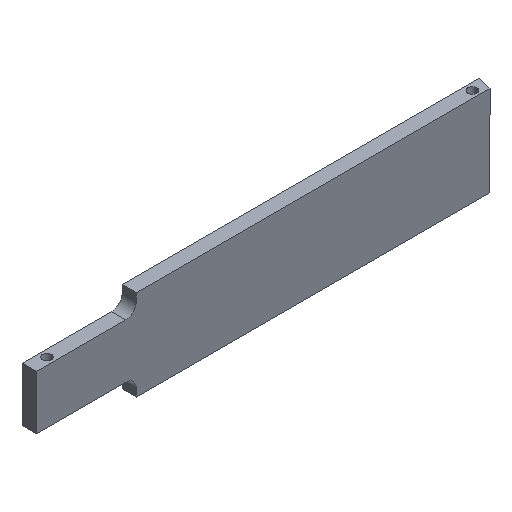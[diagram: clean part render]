
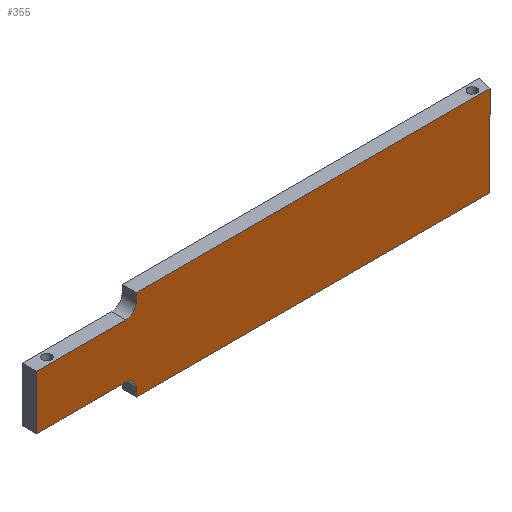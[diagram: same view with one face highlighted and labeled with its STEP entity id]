
A CAD part, isometric view. The second image highlights one B-rep face of the part: STEP entity #355.
In plain terms, the highlighted planar face has unit normal (0, -1, 0).
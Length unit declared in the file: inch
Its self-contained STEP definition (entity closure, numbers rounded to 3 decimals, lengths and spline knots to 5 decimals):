
#1 = CARTESIAN_POINT ( 'NONE',  ( -4.18, -0.15, 0.635 ) ) ;
#2 = AXIS2_PLACEMENT_3D ( 'NONE', #317, #271, #212 ) ;
#3 = EDGE_CURVE ( 'NONE', #356, #346, #481, .T. ) ;
#7 = VECTOR ( 'NONE', #104, 39.37008 ) ;
#10 = LINE ( 'NONE', #224, #467 ) ;
#14 = CARTESIAN_POINT ( 'NONE',  ( -4.18, -0.15, 0.635 ) ) ;
#22 = VERTEX_POINT ( 'NONE', #91 ) ;
#23 = EDGE_CURVE ( 'NONE', #489, #178, #56, .T. ) ;
#24 = DIRECTION ( 'NONE',  ( 0., 1., 0. ) ) ;
#25 = VERTEX_POINT ( 'NONE', #100 ) ;
#28 = DIRECTION ( 'NONE',  ( 0., 0., -1. ) ) ;
#34 = VERTEX_POINT ( 'NONE', #114 ) ;
#37 = CARTESIAN_POINT ( 'NONE',  ( 11.68603, -0.15, 0. ) ) ;
#48 = DIRECTION ( 'NONE',  ( 0., 0., 1. ) ) ;
#50 = EDGE_CURVE ( 'NONE', #305, #25, #289, .T. ) ;
#51 = DIRECTION ( 'NONE',  ( -1., 0., 0. ) ) ;
#54 = EDGE_CURVE ( 'NONE', #22, #356, #10, .T. ) ;
#56 = LINE ( 'NONE', #92, #7 ) ;
#77 = CARTESIAN_POINT ( 'NONE',  ( -1.055, -0.15, 0.26 ) ) ;
#79 = CARTESIAN_POINT ( 'NONE',  ( -0.68, -0.15, 3.16 ) ) ;
#91 = CARTESIAN_POINT ( 'NONE',  ( -0.68, -0.15, 0. ) ) ;
#92 = CARTESIAN_POINT ( 'NONE',  ( -4.18, -0.15, 2.525 ) ) ;
#100 = CARTESIAN_POINT ( 'NONE',  ( -1.055, -0.15, 0.635 ) ) ;
#104 = DIRECTION ( 'NONE',  ( -1., 0., 0. ) ) ;
#114 = CARTESIAN_POINT ( 'NONE',  ( -0.68, -0.15, 2.9 ) ) ;
#132 = DIRECTION ( 'NONE',  ( 1., 0., 0. ) ) ;
#136 = ORIENTED_EDGE ( 'NONE', *, *, #50, .T. ) ;
#178 = VERTEX_POINT ( 'NONE', #401 ) ;
#179 = CARTESIAN_POINT ( 'NONE',  ( 11.68603, -0.15, 3.16 ) ) ;
#195 = ORIENTED_EDGE ( 'NONE', *, *, #233, .T. ) ;
#206 = CARTESIAN_POINT ( 'NONE',  ( 11.68603, -0.15, 0. ) ) ;
#212 = DIRECTION ( 'NONE',  ( -1., 0., 0. ) ) ;
#224 = CARTESIAN_POINT ( 'NONE',  ( -4.18, -0.15, 0. ) ) ;
#225 = DIRECTION ( 'NONE',  ( 1., 0., 0. ) ) ;
#231 = AXIS2_PLACEMENT_3D ( 'NONE', #306, #298, #294 ) ;
#233 = EDGE_CURVE ( 'NONE', #25, #562, #407, .T. ) ;
#234 = DIRECTION ( 'NONE',  ( 0., 0., -1. ) ) ;
#247 = CARTESIAN_POINT ( 'NONE',  ( -4.18, -0.15, 3.16 ) ) ;
#255 = CARTESIAN_POINT ( 'NONE',  ( -0.68, -0.15, 3.16 ) ) ;
#256 = DIRECTION ( 'NONE',  ( 1., 0., 0. ) ) ;
#259 = ORIENTED_EDGE ( 'NONE', *, *, #466, .T. ) ;
#261 = VECTOR ( 'NONE', #414, 39.37008 ) ;
#266 = ORIENTED_EDGE ( 'NONE', *, *, #435, .T. ) ;
#271 = DIRECTION ( 'NONE',  ( 0., 1., 0. ) ) ;
#274 = VERTEX_POINT ( 'NONE', #79 ) ;
#289 = LINE ( 'NONE', #14, #491 ) ;
#294 = DIRECTION ( 'NONE',  ( -1., 0., 0. ) ) ;
#296 = CARTESIAN_POINT ( 'NONE',  ( -1.055, -0.15, 2.525 ) ) ;
#298 = DIRECTION ( 'NONE',  ( 0., 1., 0. ) ) ;
#300 = PLANE ( 'NONE',  #2 ) ;
#305 = VERTEX_POINT ( 'NONE', #1 ) ;
#306 = CARTESIAN_POINT ( 'NONE',  ( -1.055, -0.15, 2.9 ) ) ;
#315 = FACE_OUTER_BOUND ( 'NONE', #404, .T. ) ;
#317 = CARTESIAN_POINT ( 'NONE',  ( -4.18, -0.15, 3.16 ) ) ;
#320 = ORIENTED_EDGE ( 'NONE', *, *, #395, .F. ) ;
#341 = LINE ( 'NONE', #422, #261 ) ;
#346 = VERTEX_POINT ( 'NONE', #179 ) ;
#351 = ORIENTED_EDGE ( 'NONE', *, *, #54, .T. ) ;
#355 = ADVANCED_FACE ( 'NONE', ( #315 ), #300, .F. ) ;
#356 = VERTEX_POINT ( 'NONE', #206 ) ;
#386 = LINE ( 'NONE', #247, #472 ) ;
#395 = EDGE_CURVE ( 'NONE', #274, #346, #386, .T. ) ;
#401 = CARTESIAN_POINT ( 'NONE',  ( -4.18, -0.15, 2.525 ) ) ;
#404 = EDGE_LOOP ( 'NONE', ( #351, #569, #320, #266, #259, #528, #525, #136, #195, #425 ) ) ;
#407 = CIRCLE ( 'NONE', #543, 0.375 ) ;
#412 = VECTOR ( 'NONE', #28, 39.37008 ) ;
#414 = DIRECTION ( 'NONE',  ( 0., 0., -1. ) ) ;
#422 = CARTESIAN_POINT ( 'NONE',  ( -0.68, -0.15, 0. ) ) ;
#425 = ORIENTED_EDGE ( 'NONE', *, *, #576, .T. ) ;
#435 = EDGE_CURVE ( 'NONE', #274, #34, #538, .T. ) ;
#437 = LINE ( 'NONE', #451, #412 ) ;
#451 = CARTESIAN_POINT ( 'NONE',  ( -4.18, -0.15, 3.16 ) ) ;
#466 = EDGE_CURVE ( 'NONE', #34, #489, #575, .T. ) ;
#467 = VECTOR ( 'NONE', #225, 39.37008 ) ;
#472 = VECTOR ( 'NONE', #256, 39.37008 ) ;
#481 = LINE ( 'NONE', #37, #524 ) ;
#489 = VERTEX_POINT ( 'NONE', #296 ) ;
#491 = VECTOR ( 'NONE', #132, 39.37008 ) ;
#499 = CARTESIAN_POINT ( 'NONE',  ( -0.68, -0.15, 0.26 ) ) ;
#524 = VECTOR ( 'NONE', #48, 39.37008 ) ;
#525 = ORIENTED_EDGE ( 'NONE', *, *, #556, .T. ) ;
#528 = ORIENTED_EDGE ( 'NONE', *, *, #23, .T. ) ;
#538 = LINE ( 'NONE', #255, #577 ) ;
#543 = AXIS2_PLACEMENT_3D ( 'NONE', #77, #24, #51 ) ;
#556 = EDGE_CURVE ( 'NONE', #178, #305, #437, .T. ) ;
#562 = VERTEX_POINT ( 'NONE', #499 ) ;
#569 = ORIENTED_EDGE ( 'NONE', *, *, #3, .T. ) ;
#575 = CIRCLE ( 'NONE', #231, 0.375 ) ;
#576 = EDGE_CURVE ( 'NONE', #562, #22, #341, .T. ) ;
#577 = VECTOR ( 'NONE', #234, 39.37008 ) ;
